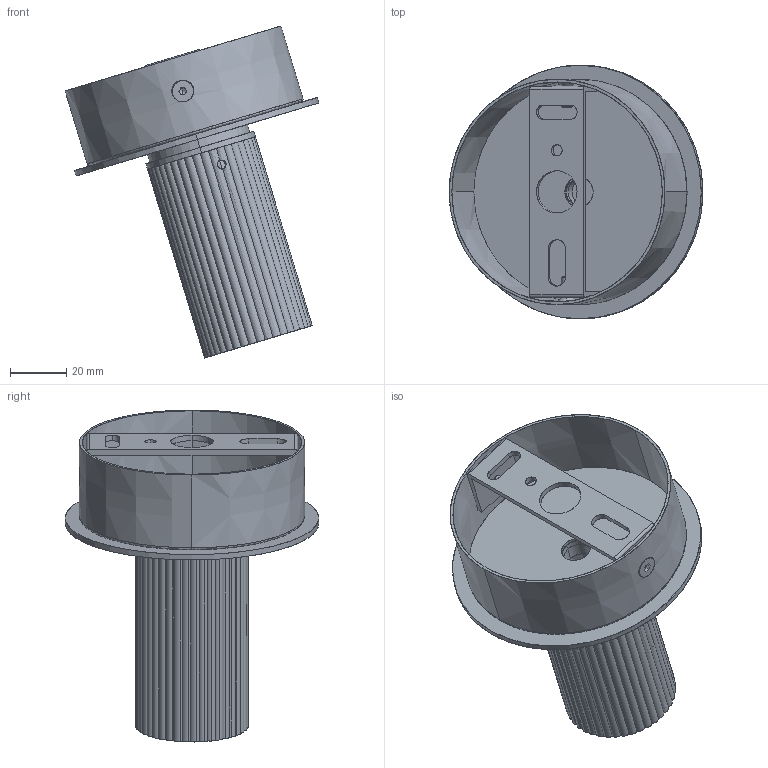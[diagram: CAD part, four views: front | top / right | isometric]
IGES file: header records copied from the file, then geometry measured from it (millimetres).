
Start section: SolidWorks IGES file using analytic representation for surfaces
Global section: file name: S:\PRODOTTI\Beak\Ceiling-point\3d\CANOPY STANDARD\BEAK Ceiling-point STANDARD.IGS; native system: SolidWorks 2020; preprocessor: SolidWorks 2020; author: Grafica; date: 251008.142032; units: millimetre
Bounding box: 90.04 x 90 x 117.83 mm (x, y, z)
Surface area: 71346.3 mm2 (no closed solid volume)
Topology: 0 solids, 0 shells, 203 faces, 4084 edges, 4080 vertices
Faces by surface type: revolution 133, bspline 70
